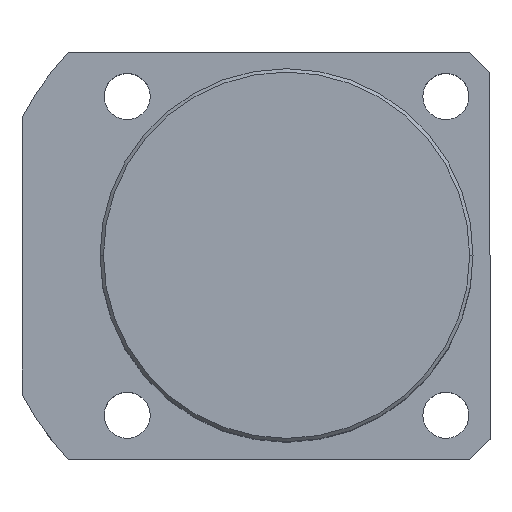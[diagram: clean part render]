
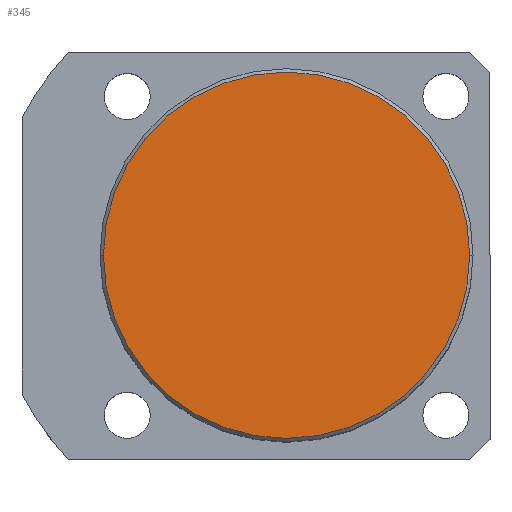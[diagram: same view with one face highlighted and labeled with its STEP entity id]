
A CAD part, top view. The second image highlights one B-rep face of the part: STEP entity #345.
In plain terms, the highlighted planar face has unit normal (0, 0, 1).
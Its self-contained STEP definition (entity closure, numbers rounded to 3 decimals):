
#147 = PLANE ( 'NONE',  #2159 ) ;
#268 = DIRECTION ( 'NONE',  ( 0., 0., 1. ) ) ;
#286 = CARTESIAN_POINT ( 'NONE',  ( 0., 0., 65. ) ) ;
#312 = DIRECTION ( 'NONE',  ( 1., 0., 0. ) ) ;
#325 = AXIS2_PLACEMENT_3D ( 'NONE', #450, #804, #2136 ) ;
#327 = EDGE_CURVE ( 'NONE', #1271, #693, #1189, .T. ) ;
#345 = ADVANCED_FACE ( 'NONE', ( #589 ), #147, .T. ) ;
#450 = CARTESIAN_POINT ( 'NONE',  ( 0., 0., 65. ) ) ;
#487 = EDGE_CURVE ( 'NONE', #693, #1271, #1538, .T. ) ;
#560 = CARTESIAN_POINT ( 'NONE',  ( -27., 0., 65. ) ) ;
#576 = CARTESIAN_POINT ( 'NONE',  ( 0., 0., 65. ) ) ;
#589 = FACE_OUTER_BOUND ( 'NONE', #2177, .T. ) ;
#603 = DIRECTION ( 'NONE',  ( 1., 0., 0. ) ) ;
#693 = VERTEX_POINT ( 'NONE', #2009 ) ;
#804 = DIRECTION ( 'NONE',  ( 0., 0., 1. ) ) ;
#1026 = ORIENTED_EDGE ( 'NONE', *, *, #487, .T. ) ;
#1189 = CIRCLE ( 'NONE', #325, 27. ) ;
#1271 = VERTEX_POINT ( 'NONE', #560 ) ;
#1307 = DIRECTION ( 'NONE',  ( 0., 0., 1. ) ) ;
#1404 = ORIENTED_EDGE ( 'NONE', *, *, #327, .T. ) ;
#1428 = AXIS2_PLACEMENT_3D ( 'NONE', #576, #268, #603 ) ;
#1538 = CIRCLE ( 'NONE', #1428, 27. ) ;
#2009 = CARTESIAN_POINT ( 'NONE',  ( 27., 0., 65. ) ) ;
#2136 = DIRECTION ( 'NONE',  ( 1., 0., 0. ) ) ;
#2159 = AXIS2_PLACEMENT_3D ( 'NONE', #286, #1307, #312 ) ;
#2177 = EDGE_LOOP ( 'NONE', ( #1404, #1026 ) ) ;
